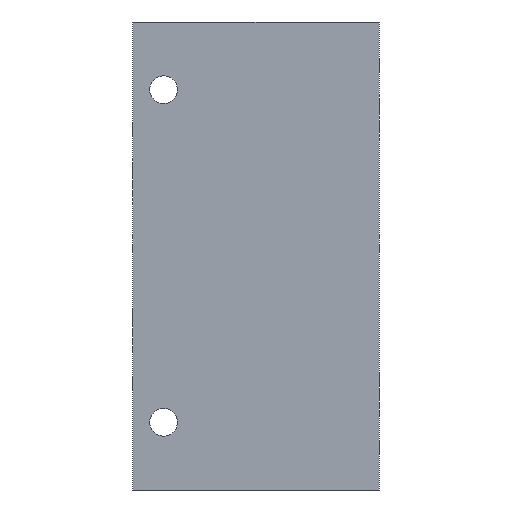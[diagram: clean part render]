
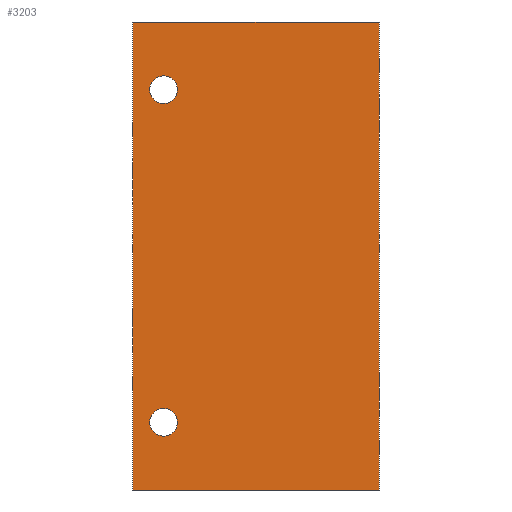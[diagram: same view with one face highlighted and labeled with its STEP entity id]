
A CAD part, front view. The second image highlights one B-rep face of the part: STEP entity #3203.
In plain terms, the highlighted planar face has unit normal (0, -1, 0).
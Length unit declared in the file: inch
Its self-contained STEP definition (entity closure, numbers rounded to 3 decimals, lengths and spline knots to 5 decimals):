
#120=FACE_BOUND('',#697,.T.);
#121=FACE_BOUND('',#698,.T.);
#122=FACE_BOUND('',#699,.T.);
#188=CIRCLE('',#3365,0.14063);
#190=CIRCLE('',#3368,0.14063);
#697=EDGE_LOOP('',(#2590));
#698=EDGE_LOOP('',(#2591));
#699=EDGE_LOOP('',(#2592,#2593,#2594,#2595));
#1075=LINE('',#5392,#1265);
#1078=LINE('',#5408,#1268);
#1084=LINE('',#5710,#1274);
#1086=LINE('',#5713,#1276);
#1265=VECTOR('',#3830,2.5);
#1268=VECTOR('',#3845,2.5);
#1274=VECTOR('',#3955,4.75);
#1276=VECTOR('',#3959,4.75);
#1486=VERTEX_POINT('',#5386);
#1488=VERTEX_POINT('',#5390);
#1494=VERTEX_POINT('',#5405);
#1495=VERTEX_POINT('',#5407);
#1498=VERTEX_POINT('',#5416);
#1500=VERTEX_POINT('',#5421);
#1862=EDGE_CURVE('',#1486,#1488,#1075,.T.);
#1868=EDGE_CURVE('',#1495,#1494,#1078,.T.);
#1872=EDGE_CURVE('',#1498,#1498,#188,.T.);
#1874=EDGE_CURVE('',#1500,#1500,#190,.T.);
#1912=EDGE_CURVE('',#1494,#1486,#1084,.T.);
#1914=EDGE_CURVE('',#1495,#1488,#1086,.T.);
#2590=ORIENTED_EDGE('',*,*,#1872,.T.);
#2591=ORIENTED_EDGE('',*,*,#1874,.T.);
#2592=ORIENTED_EDGE('',*,*,#1862,.T.);
#2593=ORIENTED_EDGE('',*,*,#1914,.F.);
#2594=ORIENTED_EDGE('',*,*,#1868,.T.);
#2595=ORIENTED_EDGE('',*,*,#1912,.T.);
#2897=PLANE('',#3413);
#3203=ADVANCED_FACE('',(#120,#121,#122),#2897,.T.);
#3365=AXIS2_PLACEMENT_3D('',#5417,#3855,#3856);
#3368=AXIS2_PLACEMENT_3D('',#5422,#3861,#3862);
#3413=AXIS2_PLACEMENT_3D('',#5712,#3957,#3958);
#3830=DIRECTION('',(1.,0.,0.));
#3845=DIRECTION('',(-1.,0.,0.));
#3855=DIRECTION('center_axis',(0.,1.,0.));
#3856=DIRECTION('ref_axis',(1.,0.,0.));
#3861=DIRECTION('center_axis',(0.,1.,0.));
#3862=DIRECTION('ref_axis',(1.,0.,0.));
#3955=DIRECTION('',(0.,0.,-1.));
#3957=DIRECTION('center_axis',(0.,-1.,0.));
#3958=DIRECTION('ref_axis',(0.,0.,-1.));
#3959=DIRECTION('',(0.,0.,-1.));
#5386=CARTESIAN_POINT('',(-1.25,-0.75,-4.75));
#5390=CARTESIAN_POINT('',(1.25,-0.75,-4.75));
#5392=CARTESIAN_POINT('',(1.25,-0.75,-4.75));
#5405=CARTESIAN_POINT('',(-1.25,-0.75,0.));
#5407=CARTESIAN_POINT('',(1.25,-0.75,0.));
#5408=CARTESIAN_POINT('',(1.25,-0.75,0.));
#5416=CARTESIAN_POINT('',(-1.07813,-0.75,-0.6875));
#5417=CARTESIAN_POINT('Origin',(-0.9375,-0.75,-0.6875));
#5421=CARTESIAN_POINT('',(-1.07813,-0.75,-4.0625));
#5422=CARTESIAN_POINT('Origin',(-0.9375,-0.75,-4.0625));
#5710=CARTESIAN_POINT('',(-1.25,-0.75,0.));
#5712=CARTESIAN_POINT('Origin',(-1.25,-0.75,0.));
#5713=CARTESIAN_POINT('',(1.25,-0.75,0.));
